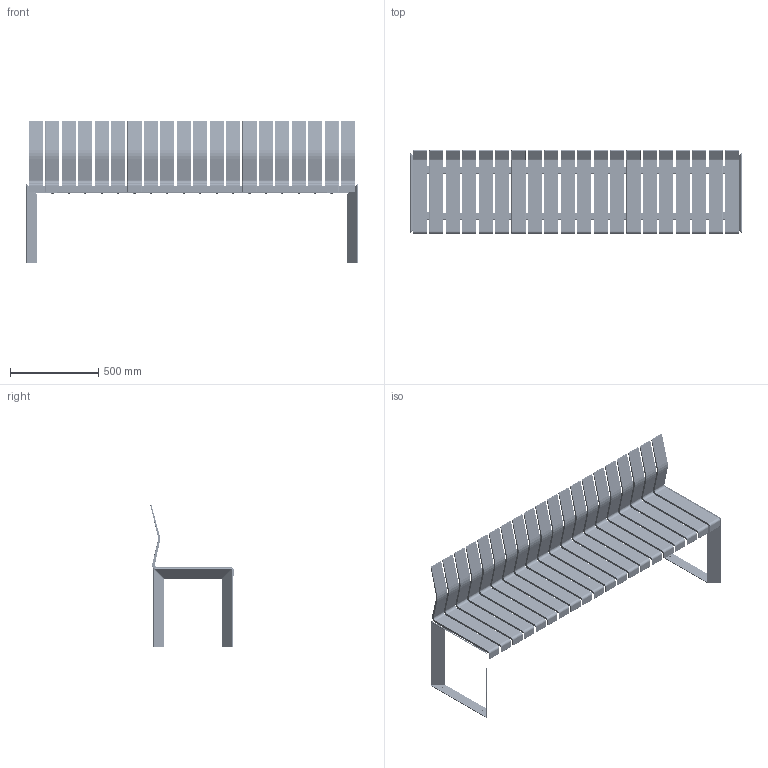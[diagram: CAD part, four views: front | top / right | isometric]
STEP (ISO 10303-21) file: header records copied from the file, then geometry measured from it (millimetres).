
FILE_DESCRIPTION(('STEP AP203'),'1');
FILE_NAME('UT80PL2050AXX + FIANCHI.stp','2025-11-11T13:35:46',(' '),(' '),'Spatial InterOp 3D',' ',' ');
FILE_SCHEMA(('CONFIG_CONTROL_DESIGN'));
Length unit declared in the file: millimetre
Products named in the file (1): UT80PL2050AXX + FIANCHI
Bounding box: 1880.16 x 472.09 x 809.28 mm (x, y, z)
Surface area: 4741817 mm2 (no closed solid volume)
Topology: 0 solids, 408 shells, 5523 faces, 23357 edges, 17404 vertices
Faces by surface type: cylinder 2328, plane 2067, torus 742, bspline 326, extrusion 46, cone 14
Full cylindrical faces by diameter (mm): 6.8 x8, 8 x4, 10 x4, 13 x8, 17.8 x44
Entity records: 277905 total; most frequent: CARTESIAN_POINT 95061, DIRECTION 37299, ORIENTED_EDGE 32878, EDGE_CURVE 23177, VERTEX_POINT 17388, VECTOR 13323, LINE 13277, AXIS2_PLACEMENT_3D 11988
